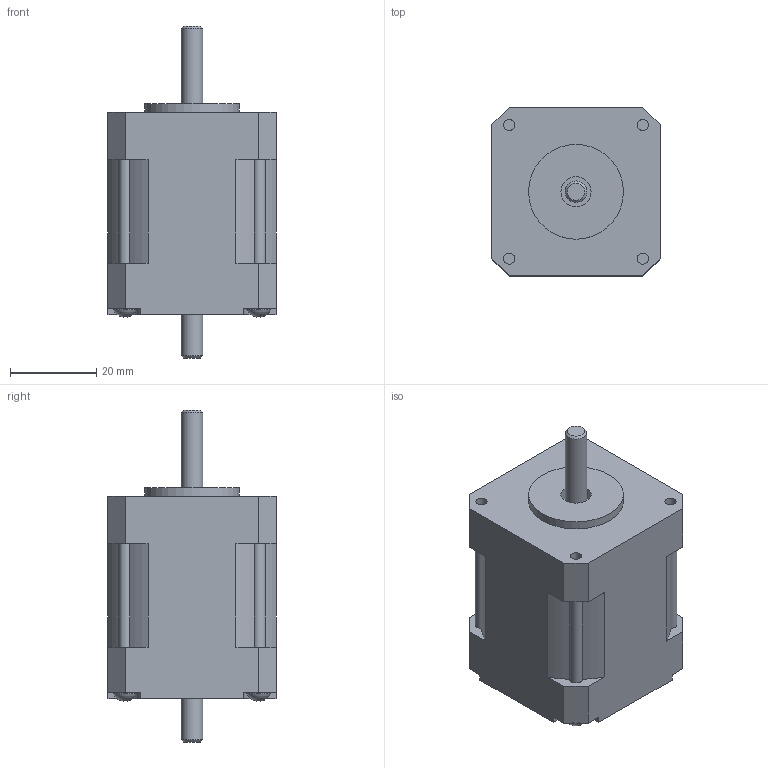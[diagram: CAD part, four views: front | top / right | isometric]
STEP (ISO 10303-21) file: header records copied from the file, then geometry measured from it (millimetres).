
FILE_DESCRIPTION(('STEP AP214'), '1');
FILE_NAME('Øàãîâûé äâèãàòåëü - PL39HD47-D5', '', ('UNSPECIFIED'), ('UNSPECIFIED'), 'ASCON STEP Converter 1.3', 'ASCON Math Kernel', '');
FILE_SCHEMA(('AUTOMOTIVE_DESIGN { 1 0 10303 214 3 1 1}'));
Length unit declared in the file: millimetre
Products named in the file (5): Øàãîâûé äâèãàòåëü
Assembly tree (4 placements, depth 2):
  Øàãîâûé äâèãàòåëü
    (unnamed)
    (unnamed)
    (unnamed)
    (unnamed)
Bounding box: 39 x 39 x 77 mm (x, y, z)
Volume: 68706.3 mm3; surface area: 10978.8 mm2
Topology: 1 solids, 1 shells, 162 faces, 435 edges, 292 vertices
Faces by surface type: plane 95, bspline 32, cylinder 29, sphere 4, cone 2
Full cylindrical faces by diameter (mm): 2.621 x4, 5 x2, 5.5 x4, 7 x2, 22 x1
Entity records: 6844 total; most frequent: CARTESIAN_POINT 1291, ORIENTED_EDGE 832, DIRECTION 766, EDGE_CURVE 416, VERTEX_POINT 288, LINE 272, VECTOR 272, AXIS2_PLACEMENT_3D 247
